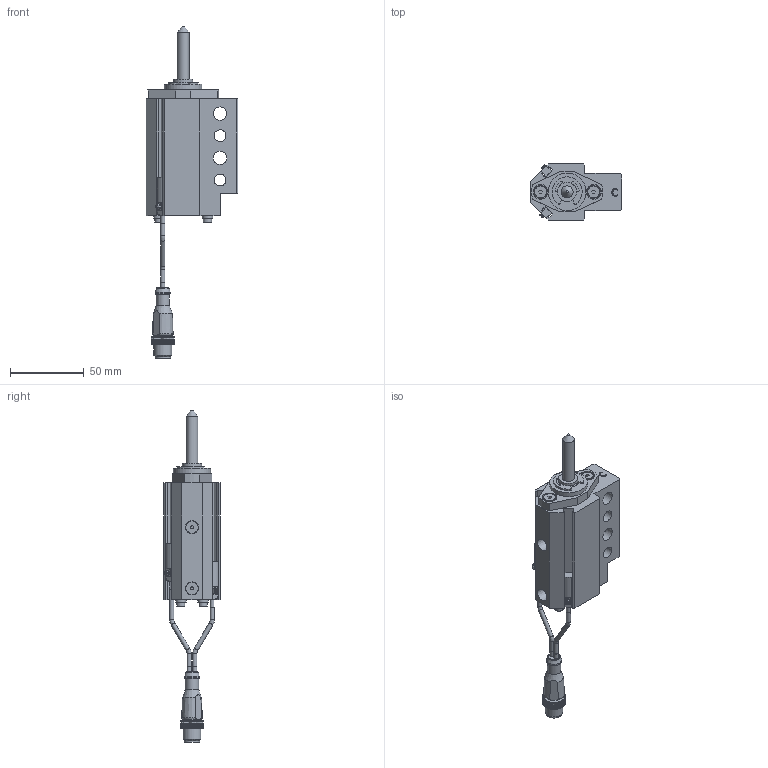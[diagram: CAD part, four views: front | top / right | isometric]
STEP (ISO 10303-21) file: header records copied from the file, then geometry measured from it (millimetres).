
FILE_DESCRIPTION(/* description */ ('NAAMS FLOATING MICRO PIN'),/* implementation_level */ '2;1');
FILE_NAME(/* name */ 'C:\Vault Workspace\CAD\Welker\Shot Pin\NMP\NMP080032CANL3.stp',/* time_stamp */ '2021-01-27T08:44:17-05:00',/* author */ ('WELKER'),/* organization */ (''),/* preprocessor_version */ 'ST-DEVELOPER v18.1',/* originating_system */ 'Autodesk Inventor 2020',/* authorisation */ '');
FILE_SCHEMA (('AUTOMOTIVE_DESIGN { 1 0 10303 214 3 1 1 }'));
Length unit declared in the file: millimetre
Products named in the file (16): NMPL01; NMP L3 SWITCH; L3 Connector; L3 Sensor 1; L3 Sensor 2; L3 Sensor cable; L3 Sensor cable 2; M3X0.5-8 SHCS; NL3; NMPE06; NMPE03; NMPE05-DIA-LENGTH; 985432A218; NMPE01C-PORT; RMPE02; M5X5 SHOULDER
Assembly tree (22 placements, depth 3):
  NMPL01
    NMP L3 SWITCH
      L3 Connector
      L3 Sensor 1
      L3 Sensor 2
      L3 Sensor cable
      L3 Sensor cable 2
    M3X0.5-8 SHCS  x4
    NL3  x4
    NMPE06
    NMPE03
    NMPE05-DIA-LENGTH
    985432A218
    NMPE01C-PORT
    RMPE02
    M5X5 SHOULDER  x2
Bounding box: 62 x 38.1 x 224.73 mm (x, y, z)
Volume: 111075.1 mm3; surface area: 45702.6 mm2
Topology: 21 solids, 21 shells, 752 faces, 2040 edges, 1364 vertices
Faces by surface type: plane 545, cylinder 144, cone 31, bspline 18, torus 11, sphere 3
Full cylindrical faces by diameter (mm): 2 x2, 2.459 x4, 2.9 x10, 3 x5, 3.242 x2, 3.4 x4, 4 x2, 5 x6, 5.5 x4, 7 x4, 8 x3, 8.3 x2, 9 x5, 10 x3, 10.4 x1, 10.5 x1, 12 x1, 13 x3, 16 x2, 19.05 x3, 21 x1, 22.5 x1, 23.672 x1, 24 x1, 25.4 x1, 25.5 x1, 26.5 x1, 28.677 x1, 29.21 x1, 31.75 x2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
Entity records: 23061 total; most frequent: CARTESIAN_POINT 4367, ORIENTED_EDGE 3778, DIRECTION 3695, EDGE_CURVE 1889, LINE 1377, VECTOR 1377, VERTEX_POINT 1269, AXIS2_PLACEMENT_3D 1159
